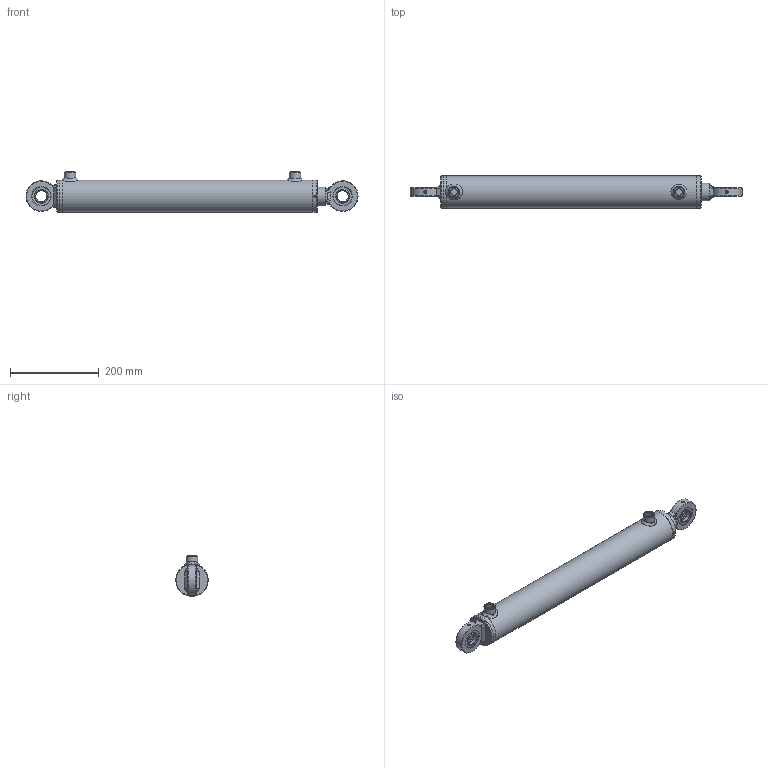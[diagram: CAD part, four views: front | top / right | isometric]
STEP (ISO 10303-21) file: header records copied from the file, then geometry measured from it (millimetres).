
FILE_DESCRIPTION( ( 'Unknown' ), '1' );
FILE_NAME( 'E:/LIBRERIA_3d/CILINDRI/HMC/HMC063400450.stp', 'Unknown', ( 'Unknown' ), ( 'Unknown' ), 'PSStep 17.0.49', 'Unknown', ' ' );
FILE_SCHEMA( ( 'AUTOMOTIVE_DESIGN { 1 0 10303 214 1 1 1 1 }' ) );
Length unit declared in the file: millimetre
Products named in the file (27): CG07306340; STL0630730450-oa6; Saldatura d'angolo 1-oa4; MAT_PRIMA_TUBO_FT07306300-oa5; CBSC220600; CT00063024; CAGEG06904225; CAGE069042; cge0250000; HM0063400450; Saldatura con preparazione 1-oa2; Saldatura d'angolo 1-oa3; CBS0600000; CF00063073; CDA0002420; APG0600000; SBL0400630450; Assem1; Saldatura d'angolo 1-oa0; Saldatura d'angolo 2-oa1
Assembly tree (20 placements, depth 4):
  Saldatura d'angolo 1-oa4
  Saldatura d'angolo 1-oa4
  Saldatura d'angolo 1-oa3
  Saldatura d'angolo 1-oa3
  Assem1
    CAGEG06904225  x2
      CAGE069042
      cge0250000
    HM0063400450
      Saldatura con preparazione 1-oa2
      Saldatura con preparazione 1-oa2
      CBS0600000
      CF00063073
      CDA0002420
      APG0600000  x2
      SBL0400630450
      CG07306340
        CG07306340
      CT00063024
        CT00063024
      STL0630730450-oa6
        MAT_PRIMA_TUBO_FT07306300-oa5
        CBSC220600
Bounding box: 748 x 73 x 92 mm (x, y, z)
Volume: 1707204.5 mm3; surface area: 451307.4 mm2
Topology: 24 solids, 24 shells, 414 faces, 924 edges, 503 vertices
Faces by surface type: bspline 164, plane 82, cylinder 79, cone 47, torus 38, sphere 4
Full cylindrical faces by diameter (mm): 2 x4, 4.25 x1, 5 x4, 6 x2, 7 x2, 14.95 x2, 16 x2, 16.6 x2, 22 x2, 23.4 x1, 24 x5, 25 x4, 26 x2, 28.5 x1, 36 x1, 40 x6, 42 x7, 43 x1, 47 x1, 48 x1, 48.6 x1, 58 x1, 58.39 x2, 61.63 x2, 62.9 x1, 63 x1, 63.8 x1, 64 x1, 64.1 x1, 65 x4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
Entity records: 17321 total; most frequent: CARTESIAN_POINT 8336, ORIENTED_EDGE 1126, DIRECTION 900, EDGE_LOOP 570, EDGE_CURVE 563, FACE_OUTER_BOUND 478, AXIS2_PLACEMENT_3D 436, VERTEX_POINT 394
